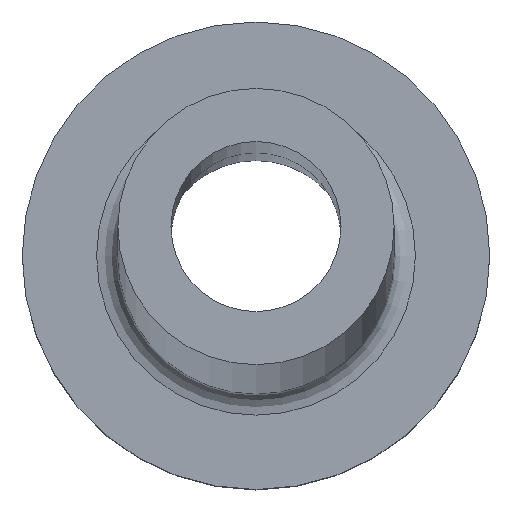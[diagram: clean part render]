
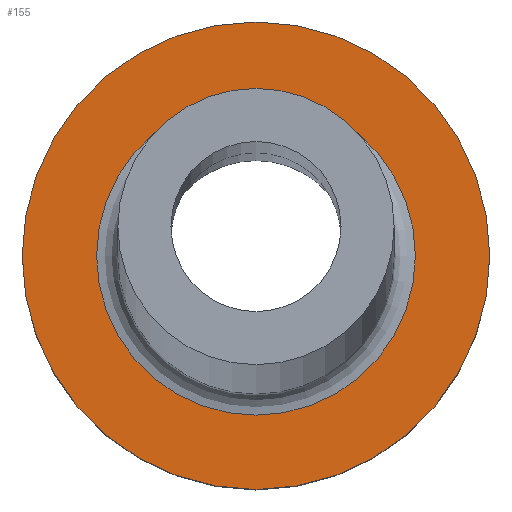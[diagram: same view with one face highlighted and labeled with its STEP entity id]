
A CAD part, top view. The second image highlights one B-rep face of the part: STEP entity #155.
In plain terms, the highlighted planar face has unit normal (0, 0, 1).
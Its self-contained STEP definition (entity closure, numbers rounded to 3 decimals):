
#43 = ORIENTED_EDGE ( 'NONE', *, *, #241, .T. ) ;
#46 = VERTEX_POINT ( 'NONE', #258 ) ;
#48 = EDGE_LOOP ( 'NONE', ( #43 ) ) ;
#52 = EDGE_LOOP ( 'NONE', ( #116 ) ) ;
#62 = DIRECTION ( 'NONE',  ( 0., 0., -1. ) ) ;
#73 = AXIS2_PLACEMENT_3D ( 'NONE', #259, #105, #240 ) ;
#92 = VERTEX_POINT ( 'NONE', #128 ) ;
#105 = DIRECTION ( 'NONE',  ( 0., 0., 1. ) ) ;
#106 = AXIS2_PLACEMENT_3D ( 'NONE', #210, #62, #189 ) ;
#110 = PLANE ( 'NONE',  #285 ) ;
#116 = ORIENTED_EDGE ( 'NONE', *, *, #266, .T. ) ;
#121 = CIRCLE ( 'NONE', #106, 3.75 ) ;
#124 = FACE_BOUND ( 'NONE', #48, .T. ) ;
#128 = CARTESIAN_POINT ( 'NONE',  ( 3.75, 0., 6. ) ) ;
#133 = DIRECTION ( 'NONE',  ( 0., 0., 1. ) ) ;
#155 = ADVANCED_FACE ( 'NONE', ( #124, #269 ), #110, .T. ) ;
#170 = DIRECTION ( 'NONE',  ( 1., 0., 0. ) ) ;
#189 = DIRECTION ( 'NONE',  ( 1., 0., 0. ) ) ;
#200 = CIRCLE ( 'NONE', #73, 5.5 ) ;
#210 = CARTESIAN_POINT ( 'NONE',  ( 0., 0., 6. ) ) ;
#214 = CARTESIAN_POINT ( 'NONE',  ( 0., 0., 6. ) ) ;
#240 = DIRECTION ( 'NONE',  ( 1., 0., 0. ) ) ;
#241 = EDGE_CURVE ( 'NONE', #92, #92, #121, .T. ) ;
#258 = CARTESIAN_POINT ( 'NONE',  ( 5.5, 0., 6. ) ) ;
#259 = CARTESIAN_POINT ( 'NONE',  ( 0., 0., 6. ) ) ;
#266 = EDGE_CURVE ( 'NONE', #46, #46, #200, .T. ) ;
#269 = FACE_OUTER_BOUND ( 'NONE', #52, .T. ) ;
#285 = AXIS2_PLACEMENT_3D ( 'NONE', #214, #133, #170 ) ;
